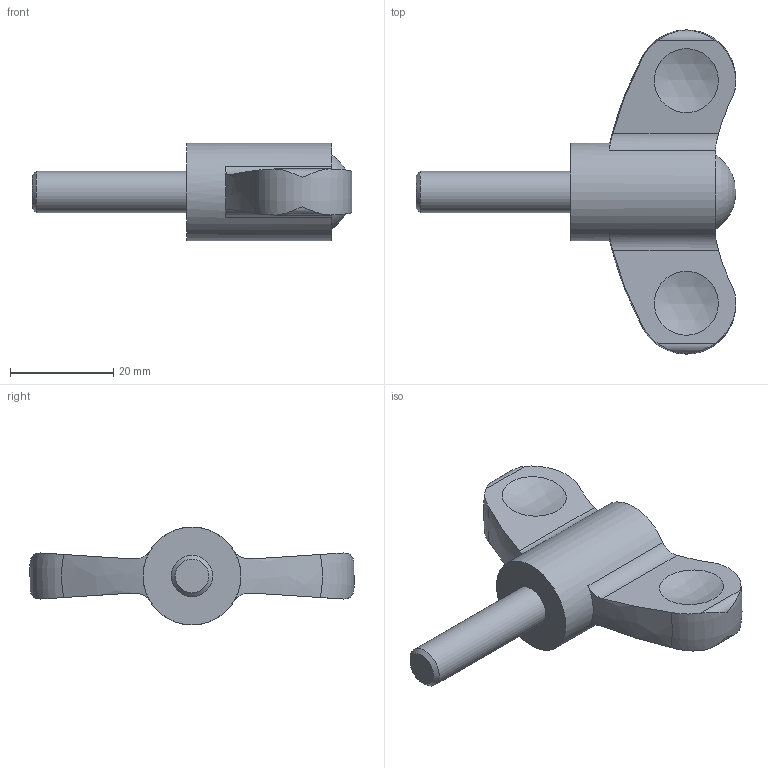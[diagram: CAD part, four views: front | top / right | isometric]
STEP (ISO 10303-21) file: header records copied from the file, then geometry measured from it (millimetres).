
FILE_DESCRIPTION( ( 'STEP AP203' ), '1' );
FILE_NAME( 'C:/Temp/Ganter_Step_05_03_2020/data/2_2/gn_633/Wing nut GN 633-63-M8-30-DBL.stp', '2020-03-05T12:20:57', ( 'License CC BY-ND 4.0' ), ( 'CADENAS' ), ' ', 'PARTsolutions', ' ' );
FILE_SCHEMA( ( 'CONFIG_CONTROL_DESIGN' ) );
Length unit declared in the file: millimetre
Products named in the file (1): _Wing nut GN 633-63-M8-30-DBL
Bounding box: 62 x 62.9 x 19 mm (x, y, z)
Volume: 15681.8 mm3; surface area: 5279.5 mm2
Topology: 1 solids, 1 shells, 29 faces, 75 edges, 52 vertices
Faces by surface type: cylinder 10, sphere 7, plane 6, bspline 3, torus 2, cone 1
Full cylindrical faces by diameter (mm): 8 x1, 19 x1
Entity records: 1209 total; most frequent: CARTESIAN_POINT 536, ORIENTED_EDGE 134, DIRECTION 112, EDGE_CURVE 67, AXIS2_PLACEMENT_3D 50, VERTEX_POINT 50, EDGE_LOOP 38, FACE_OUTER_BOUND 32
